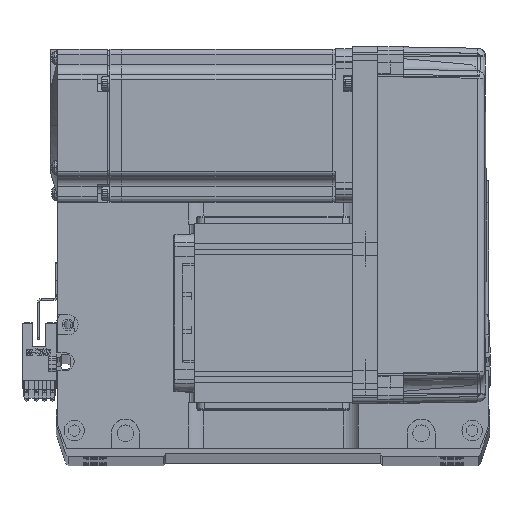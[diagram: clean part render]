
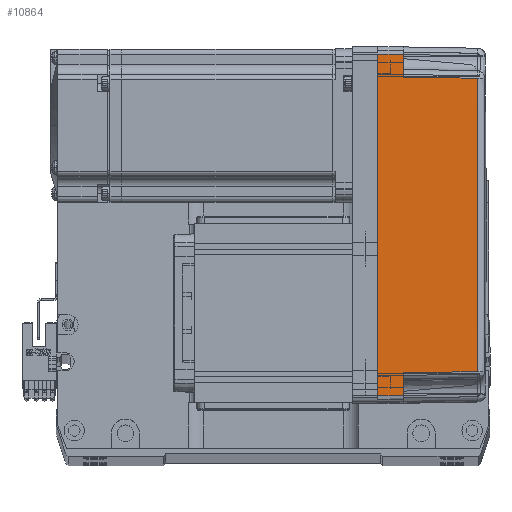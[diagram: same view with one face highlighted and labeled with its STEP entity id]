
A CAD part, top view. The second image highlights one B-rep face of the part: STEP entity #10864.
In plain terms, the highlighted planar face has unit normal (0.018, 0, 1) as drawn and (0, -1, 0.017) by its records, which use the part's own axes.
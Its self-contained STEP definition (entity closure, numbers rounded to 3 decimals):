
#3503 = ORIENTED_EDGE ( 'NONE', *, *, #10053, .T. ) ;
#4443 = VERTEX_POINT ( 'NONE', #4928 ) ;
#4928 = CARTESIAN_POINT ( 'NONE',  ( 66.826, -35.825, 10. ) ) ;
#7437 = LINE ( 'NONE', #33137, #61381 ) ;
#9322 = ORIENTED_EDGE ( 'NONE', *, *, #60732, .F. ) ;
#9489 = LINE ( 'NONE', #11156, #26550 ) ;
#10053 = EDGE_CURVE ( 'NONE', #4443, #44633, #37781, .T. ) ;
#10864 = ADVANCED_FACE ( 'NONE', ( #31867 ), #28203, .T. ) ;
#10987 = EDGE_CURVE ( 'NONE', #64139, #35318, #7437, .T. ) ;
#11156 = CARTESIAN_POINT ( 'NONE',  ( 0., -36., 0. ) ) ;
#12568 = LINE ( 'NONE', #65860, #48501 ) ;
#14319 = CARTESIAN_POINT ( 'NONE',  ( 19.165, -35.316, 39.181 ) ) ;
#14749 = LINE ( 'NONE', #54166, #17980 ) ;
#16330 = DIRECTION ( 'NONE',  ( -1., 0., 0. ) ) ;
#17202 = EDGE_CURVE ( 'NONE', #35318, #22531, #12568, .T. ) ;
#17380 = DIRECTION ( 'NONE',  ( -0.017, -0.017, -1. ) ) ;
#17980 = VECTOR ( 'NONE', #32640, 1000. ) ;
#17999 = ORIENTED_EDGE ( 'NONE', *, *, #17202, .T. ) ;
#18955 = VECTOR ( 'NONE', #33218, 1000. ) ;
#19881 = AXIS2_PLACEMENT_3D ( 'NONE', #31807, #63631, #65028 ) ;
#20077 = ORIENTED_EDGE ( 'NONE', *, *, #42669, .T. ) ;
#20102 = CARTESIAN_POINT ( 'NONE',  ( -58., -35.825, 10. ) ) ;
#22419 = ORIENTED_EDGE ( 'NONE', *, *, #62896, .T. ) ;
#22531 = VERTEX_POINT ( 'NONE', #64685 ) ;
#23925 = DIRECTION ( 'NONE',  ( -1., 0., 0. ) ) ;
#24516 = CARTESIAN_POINT ( 'NONE',  ( -57.495, -35.32, 38.985 ) ) ;
#25487 = CARTESIAN_POINT ( 'NONE',  ( 58., -35.825, 10. ) ) ;
#26550 = VECTOR ( 'NONE', #16330, 1000. ) ;
#27846 = EDGE_CURVE ( 'NONE', #67716, #64139, #65883, .T. ) ;
#28203 = PLANE ( 'NONE',  #19881 ) ;
#28685 = VECTOR ( 'NONE', #55560, 1000. ) ;
#31807 = CARTESIAN_POINT ( 'NONE',  ( 70., -36., 0. ) ) ;
#31867 = FACE_OUTER_BOUND ( 'NONE', #55203, .T. ) ;
#32640 = DIRECTION ( 'NONE',  ( -0.017, 0.017, 1. ) ) ;
#33137 = CARTESIAN_POINT ( 'NONE',  ( -57.495, -35.32, 38.985 ) ) ;
#33218 = DIRECTION ( 'NONE',  ( -1., 0., 0. ) ) ;
#35295 = EDGE_CURVE ( 'NONE', #53593, #22531, #42583, .T. ) ;
#35318 = VERTEX_POINT ( 'NONE', #20102 ) ;
#36177 = CARTESIAN_POINT ( 'NONE',  ( 57.495, -35.32, 38.985 ) ) ;
#37781 = LINE ( 'NONE', #64579, #18955 ) ;
#40230 = CARTESIAN_POINT ( 'NONE',  ( 58., -35.825, 10. ) ) ;
#42583 = LINE ( 'NONE', #65921, #28685 ) ;
#42669 = EDGE_CURVE ( 'NONE', #44633, #67716, #61405, .T. ) ;
#43258 = CARTESIAN_POINT ( 'NONE',  ( 67., -36., 0. ) ) ;
#44633 = VERTEX_POINT ( 'NONE', #25487 ) ;
#48501 = VECTOR ( 'NONE', #23925, 1000. ) ;
#50228 = ORIENTED_EDGE ( 'NONE', *, *, #27846, .T. ) ;
#50926 = CARTESIAN_POINT ( 'NONE',  ( 57.495, -35.32, 38.985 ) ) ;
#51298 = VERTEX_POINT ( 'NONE', #43258 ) ;
#51773 = CARTESIAN_POINT ( 'NONE',  ( -19.165, -35.316, 39.181 ) ) ;
#52547 = ORIENTED_EDGE ( 'NONE', *, *, #35295, .F. ) ;
#53593 = VERTEX_POINT ( 'NONE', #56368 ) ;
#54166 = CARTESIAN_POINT ( 'NONE',  ( 67., -36., 0. ) ) ;
#55203 = EDGE_LOOP ( 'NONE', ( #22419, #3503, #20077, #50228, #57503, #17999, #52547, #9322 ) ) ;
#55560 = DIRECTION ( 'NONE',  ( 0.017, 0.017, 1. ) ) ;
#56368 = CARTESIAN_POINT ( 'NONE',  ( -67., -36., 0. ) ) ;
#57503 = ORIENTED_EDGE ( 'NONE', *, *, #10987, .T. ) ;
#60732 = EDGE_CURVE ( 'NONE', #51298, #53593, #9489, .T. ) ;
#61381 = VECTOR ( 'NONE', #17380, 1000. ) ;
#61405 = LINE ( 'NONE', #40230, #63053 ) ;
#61606 = CARTESIAN_POINT ( 'NONE',  ( -57.495, -35.32, 38.985 ) ) ;
#62896 = EDGE_CURVE ( 'NONE', #51298, #4443, #14749, .T. ) ;
#63053 = VECTOR ( 'NONE', #65704, 1000. ) ;
#63631 = DIRECTION ( 'NONE',  ( 0., -1., 0.017 ) ) ;
#64139 = VERTEX_POINT ( 'NONE', #24516 ) ;
#64579 = CARTESIAN_POINT ( 'NONE',  ( 70., -35.825, 10. ) ) ;
#64685 = CARTESIAN_POINT ( 'NONE',  ( -66.826, -35.825, 10. ) ) ;
#65028 = DIRECTION ( 'NONE',  ( 0., -0.017, -1. ) ) ;
#65704 = DIRECTION ( 'NONE',  ( -0.017, 0.017, 1. ) ) ;
#65860 = CARTESIAN_POINT ( 'NONE',  ( 70., -35.825, 10. ) ) ;
#65883 = B_SPLINE_CURVE_WITH_KNOTS ( 'NONE', 3,
 ( #36177, #14319, #51773, #61606 ),
 .UNSPECIFIED., .F., .F.,
 ( 4, 4 ),
 ( 0., 1. ),
 .UNSPECIFIED. ) ;
#65921 = CARTESIAN_POINT ( 'NONE',  ( -66.959, -35.958, 2.39 ) ) ;
#67716 = VERTEX_POINT ( 'NONE', #50926 ) ;
